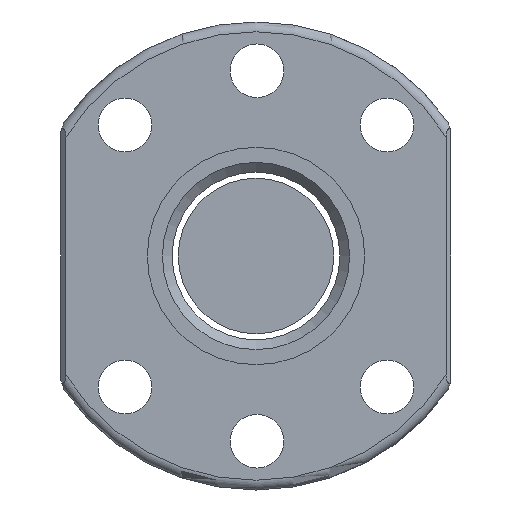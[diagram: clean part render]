
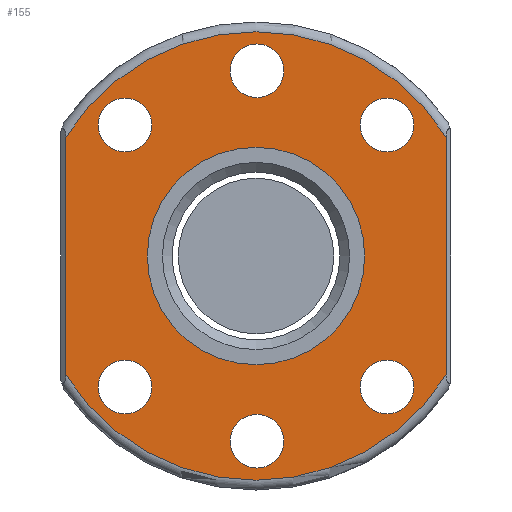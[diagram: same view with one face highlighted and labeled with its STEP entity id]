
A CAD part, front view. The second image highlights one B-rep face of the part: STEP entity #155.
In plain terms, the highlighted planar face has unit normal (0, -1, 0).
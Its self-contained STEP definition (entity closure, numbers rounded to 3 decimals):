
#48=LINE('',#913,#72);
#49=LINE('',#917,#73);
#72=VECTOR('',#750,1.);
#73=VECTOR('',#753,1.);
#118=PLANE('',#655);
#155=ADVANCED_FACE('',(#212,#213,#214,#215,#216,#217,#218,#219),#118,.T.);
#212=FACE_BOUND('',#264,.T.);
#213=FACE_BOUND('',#265,.T.);
#214=FACE_BOUND('',#266,.T.);
#215=FACE_BOUND('',#267,.T.);
#216=FACE_BOUND('',#268,.T.);
#217=FACE_BOUND('',#269,.T.);
#218=FACE_BOUND('',#270,.T.);
#219=FACE_BOUND('',#271,.T.);
#264=EDGE_LOOP('',(#335));
#265=EDGE_LOOP('',(#336));
#266=EDGE_LOOP('',(#337));
#267=EDGE_LOOP('',(#338));
#268=EDGE_LOOP('',(#339));
#269=EDGE_LOOP('',(#340,#341,#342,#343));
#270=EDGE_LOOP('',(#344));
#271=EDGE_LOOP('',(#345));
#335=ORIENTED_EDGE('',*,*,#536,.F.);
#336=ORIENTED_EDGE('',*,*,#537,.T.);
#337=ORIENTED_EDGE('',*,*,#538,.F.);
#338=ORIENTED_EDGE('',*,*,#539,.F.);
#339=ORIENTED_EDGE('',*,*,#540,.F.);
#340=ORIENTED_EDGE('',*,*,#541,.T.);
#341=ORIENTED_EDGE('',*,*,#542,.T.);
#342=ORIENTED_EDGE('',*,*,#543,.T.);
#343=ORIENTED_EDGE('',*,*,#544,.T.);
#344=ORIENTED_EDGE('',*,*,#545,.T.);
#345=ORIENTED_EDGE('',*,*,#546,.T.);
#479=VERTEX_POINT('',#901);
#480=VERTEX_POINT('',#903);
#481=VERTEX_POINT('',#905);
#482=VERTEX_POINT('',#907);
#483=VERTEX_POINT('',#909);
#484=VERTEX_POINT('',#911);
#485=VERTEX_POINT('',#912);
#486=VERTEX_POINT('',#914);
#487=VERTEX_POINT('',#916);
#488=VERTEX_POINT('',#919);
#489=VERTEX_POINT('',#921);
#536=EDGE_CURVE('',#479,#479,#607,.T.);
#537=EDGE_CURVE('',#480,#480,#608,.T.);
#538=EDGE_CURVE('',#481,#481,#609,.T.);
#539=EDGE_CURVE('',#482,#482,#610,.T.);
#540=EDGE_CURVE('',#483,#483,#611,.T.);
#541=EDGE_CURVE('',#484,#485,#612,.T.);
#542=EDGE_CURVE('',#485,#486,#48,.T.);
#543=EDGE_CURVE('',#486,#487,#613,.T.);
#544=EDGE_CURVE('',#487,#484,#49,.T.);
#545=EDGE_CURVE('',#488,#488,#614,.T.);
#546=EDGE_CURVE('',#489,#489,#615,.T.);
#607=CIRCLE('',#646,11.15);
#608=CIRCLE('',#647,2.75);
#609=CIRCLE('',#648,2.75);
#610=CIRCLE('',#649,2.75);
#611=CIRCLE('',#650,2.75);
#612=CIRCLE('',#651,23.);
#613=CIRCLE('',#652,23.);
#614=CIRCLE('',#653,2.75);
#615=CIRCLE('',#654,2.75);
#646=AXIS2_PLACEMENT_3D('',#900,#738,#739);
#647=AXIS2_PLACEMENT_3D('',#902,#740,#741);
#648=AXIS2_PLACEMENT_3D('',#904,#742,#743);
#649=AXIS2_PLACEMENT_3D('',#906,#744,#745);
#650=AXIS2_PLACEMENT_3D('',#908,#746,#747);
#651=AXIS2_PLACEMENT_3D('',#910,#748,#749);
#652=AXIS2_PLACEMENT_3D('',#915,#751,#752);
#653=AXIS2_PLACEMENT_3D('',#918,#754,#755);
#654=AXIS2_PLACEMENT_3D('',#920,#756,#757);
#655=AXIS2_PLACEMENT_3D('',#922,#758,#759);
#738=DIRECTION('',(0.,-1.,0.));
#739=DIRECTION('',(1.,0.,0.));
#740=DIRECTION('',(0.,1.,0.));
#741=DIRECTION('',(1.,0.,0.));
#742=DIRECTION('',(0.,-1.,0.));
#743=DIRECTION('',(1.,0.,0.));
#744=DIRECTION('',(0.,-1.,0.));
#745=DIRECTION('',(1.,0.,0.));
#746=DIRECTION('',(0.,-1.,0.));
#747=DIRECTION('',(1.,0.,0.));
#748=DIRECTION('',(0.,-1.,0.));
#749=DIRECTION('',(0.,0.,-1.));
#750=DIRECTION('',(0.,0.,-1.));
#751=DIRECTION('',(0.,-1.,0.));
#752=DIRECTION('',(0.,0.,-1.));
#753=DIRECTION('',(0.,0.,1.));
#754=DIRECTION('',(0.,1.,0.));
#755=DIRECTION('',(1.,0.,0.));
#756=DIRECTION('',(0.,1.,0.));
#757=DIRECTION('',(1.,0.,0.));
#758=DIRECTION('',(0.,-1.,0.));
#759=DIRECTION('',(0.,0.,-1.));
#900=CARTESIAN_POINT('',(0.,0.,0.));
#901=CARTESIAN_POINT('',(11.15,0.,0.));
#902=CARTESIAN_POINT('',(13.435,0.,-13.435));
#903=CARTESIAN_POINT('',(16.185,0.,-13.435));
#904=CARTESIAN_POINT('',(13.435,0.,13.435));
#905=CARTESIAN_POINT('',(16.185,0.,13.435));
#906=CARTESIAN_POINT('',(0.096,0.,19.));
#907=CARTESIAN_POINT('',(2.846,0.,19.));
#908=CARTESIAN_POINT('',(-13.435,0.,13.435));
#909=CARTESIAN_POINT('',(-10.685,0.,13.435));
#910=CARTESIAN_POINT('',(0.,0.,0.));
#911=CARTESIAN_POINT('',(19.5,0.,12.196));
#912=CARTESIAN_POINT('',(-19.5,0.,12.196));
#913=CARTESIAN_POINT('',(-19.5,0.,-11.358));
#914=CARTESIAN_POINT('',(-19.5,0.,-12.196));
#915=CARTESIAN_POINT('',(0.,0.,0.));
#916=CARTESIAN_POINT('',(19.5,0.,-12.196));
#917=CARTESIAN_POINT('',(19.5,0.,11.358));
#918=CARTESIAN_POINT('',(0.096,0.,-19.));
#919=CARTESIAN_POINT('',(2.846,0.,-19.));
#920=CARTESIAN_POINT('',(-13.435,0.,-13.435));
#921=CARTESIAN_POINT('',(-10.685,0.,-13.435));
#922=CARTESIAN_POINT('',(0.,0.,0.));
